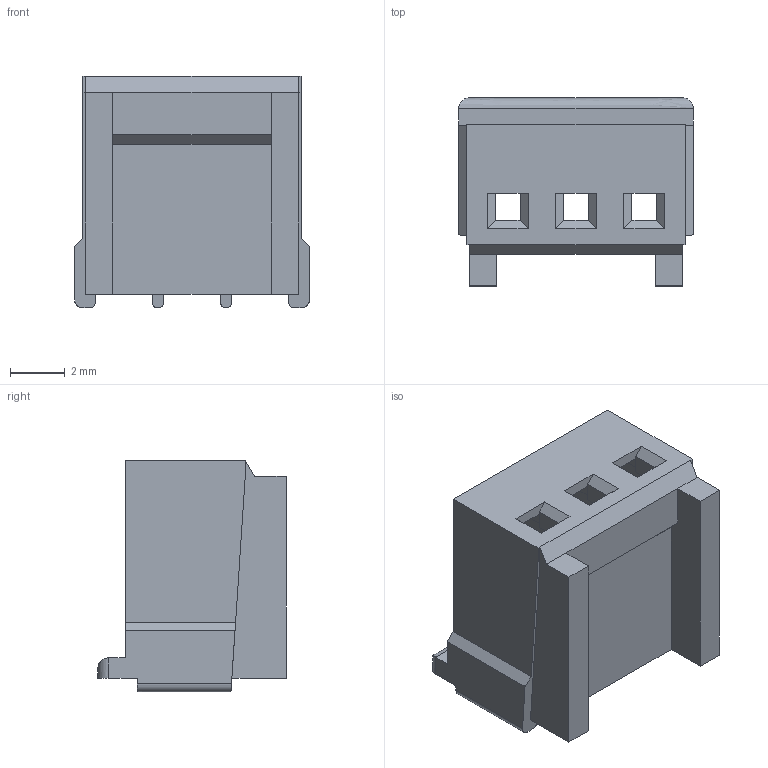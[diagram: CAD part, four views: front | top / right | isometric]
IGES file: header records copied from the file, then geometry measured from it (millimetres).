
Start section: START RECORD GO HERE.
Global section: file name: 60_8263_3038_15_xxx.igs; native system: DASSAULT SYSTEMES CATIA V5 R19 - www.3ds.com; preprocessor: CATIA Version 5 Release 19 SP 8 ; author: User; organization: CATIA11; date: 20120524.130413; units: millimetre
Bounding box: 8.6 x 6.9 x 8.5 mm (x, y, z)
Volume: 200.3 mm3; surface area: 564.6 mm2
Topology: 1 solids, 1 shells, 143 faces, 426 edges, 279 vertices
Faces by surface type: plane 126, revolution 17
